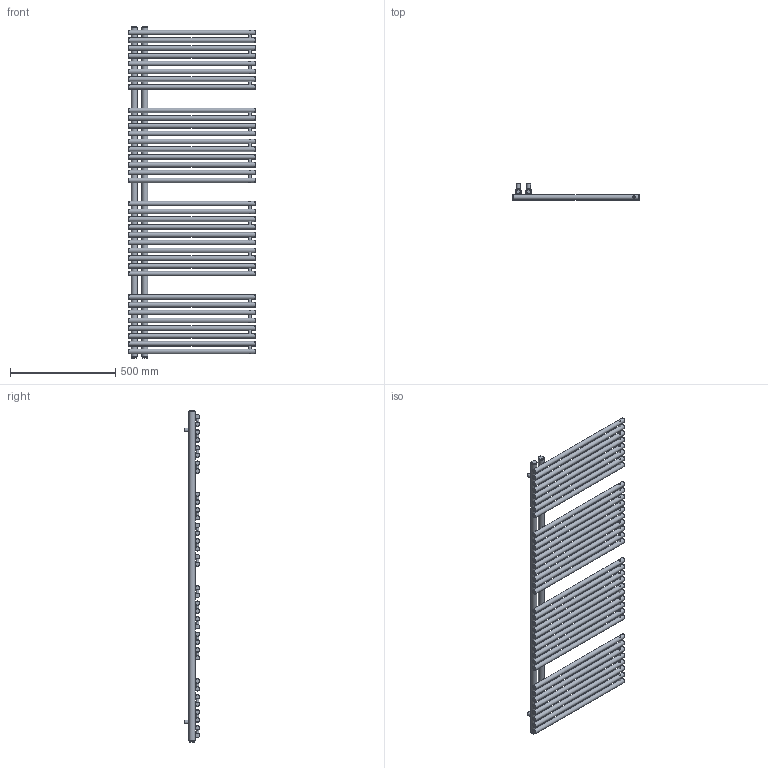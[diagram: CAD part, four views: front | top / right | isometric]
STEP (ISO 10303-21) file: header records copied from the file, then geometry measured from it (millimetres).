
FILE_DESCRIPTION(/* description */ (''),/* implementation_level */ '2;1');
FILE_NAME(/* name */ 'C:\Grzejniki\13DLUXRAD\łazienkowe\MODEL E\MODEL E 1567x600.iam.stp',/* time_stamp */ '2016-06-28T17:35:20+02:00',/* author */ ('m.szydziak'),/* organization */ (''),/* preprocessor_version */ 'ST-DEVELOPER v16.5',/* originating_system */ 'Autodesk Inventor 2017',/* authorisation */ '');
FILE_SCHEMA (('AUTOMOTIVE_DESIGN { 1 0 10303 214 3 1 1 }'));
Length unit declared in the file: millimetre
Products named in the file (7): MODEL E 1567x600; %%c30x1,5x1567; fi22x1,2x600; uchwyt stały; zaślepka fi30 G0,5inch; korek; %%c18x1,5x54
Assembly tree (68 placements, depth 2):
  MODEL E 1567x600
    %%c30x1,5x1567  x2
    fi22x1,2x600  x36
    uchwyt stały  x4
    zaślepka fi30 G0,5inch  x4
    korek  x4
    %%c18x1,5x54  x18
Bounding box: 600 x 74 x 1579 mm (x, y, z)
Volume: 2199984.7 mm3; surface area: 3505810.2 mm2
Topology: 68 solids, 104 shells, 468 faces, 956 edges, 700 vertices
Faces by surface type: plane 260, cylinder 208
Full cylindrical faces by diameter (mm): 9 x18, 10 x72, 12 x18, 15 x4, 18 x4, 18.631 x8, 19.6 x36, 22 x36, 24 x4, 27 x6, 30 x2
Entity records: 5361 total; most frequent: CARTESIAN_POINT 2926, DIRECTION 402, ORIENTED_EDGE 338, EDGE_LOOP 208, AXIS2_PLACEMENT_3D 189, EDGE_CURVE 169, VERTEX_POINT 157, FACE_BOUND 131
